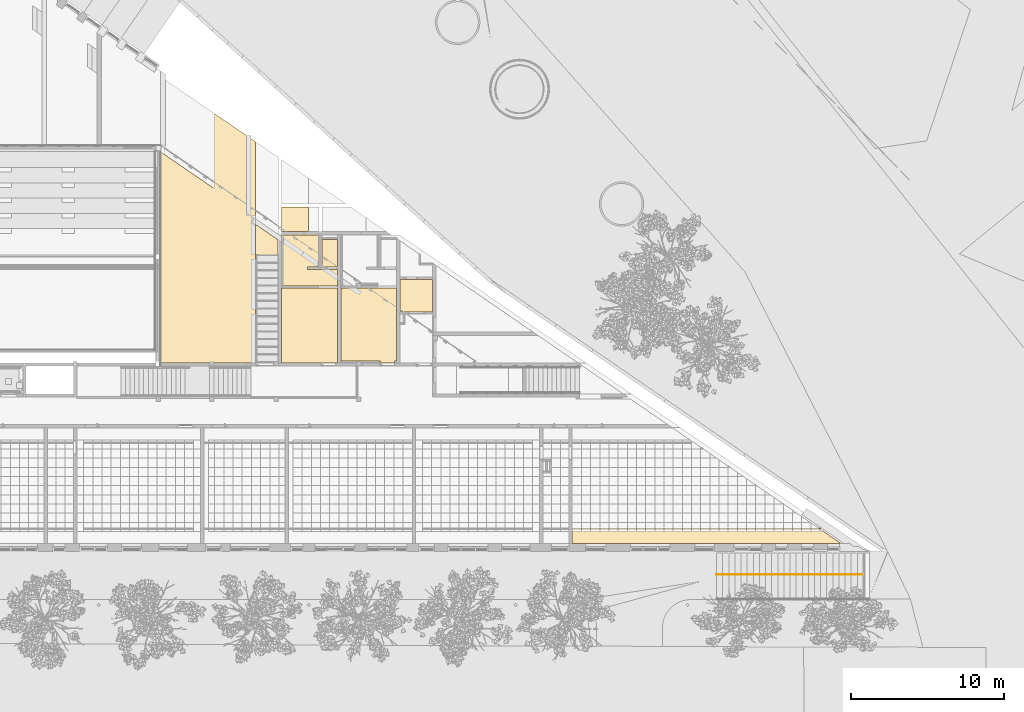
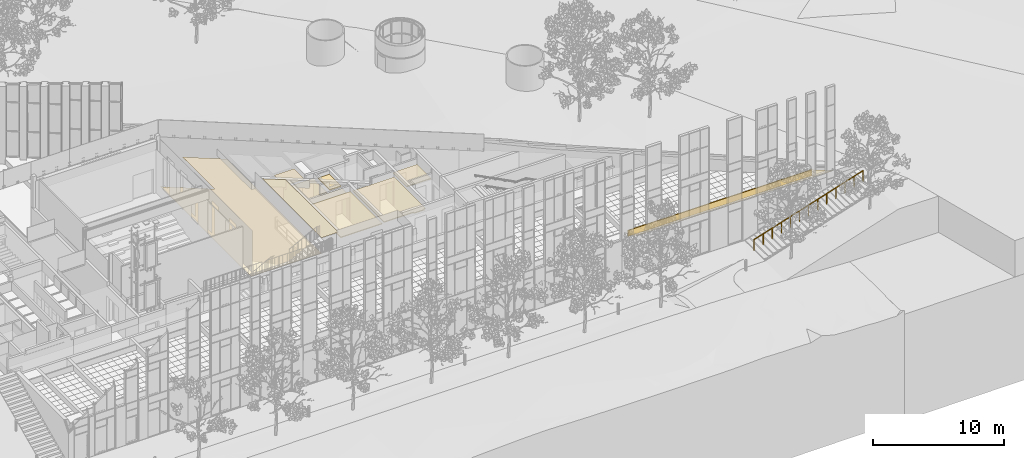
# One storey, part 186 of 246: 10 coverings, 1 railing.
"""IFC2X3 building model written with IfcOpenShell, lengths in millimetres."""

from ifc_helpers import new_model, entity, si_unit, converted_unit, derived_unit, money_unit, direction, frame, origin_with_axes, place, context, subcontext, project, spatial, faceted_brep, material, material_list, type_object, element, save


model = new_model("IFC2X3")

# Units and contexts
model_context = context("Model", 3, precision=0.01, world=origin_with_axes(), true_north=direction((0.0, 1.0)))
body_context = subcontext(model_context, "Body", "Model", "MODEL_VIEW")
ifc_project = project(units=[si_unit("LENGTHUNIT", "METRE", prefix="MILLI"), si_unit("AREAUNIT", "SQUARE_METRE"), si_unit("VOLUMEUNIT", "CUBIC_METRE"), converted_unit("PLANEANGLEUNIT", "DEGREE", entity("IfcPlaneAngleMeasure", 0.0174532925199), si_unit("PLANEANGLEUNIT", "RADIAN"), dimensions=[0, 0, 0, 0, 0, 0, 0]), si_unit("SOLIDANGLEUNIT", "STERADIAN"), money_unit("EUR"), converted_unit("TIMEUNIT", "Year", entity("IfcTimeMeasure", 31556926.0), si_unit("TIMEUNIT", "SECOND"), dimensions=[0, 0, 1, 0, 0, 0, 0]), si_unit("MASSUNIT", "GRAM", prefix="KILO"), si_unit("THERMODYNAMICTEMPERATUREUNIT", "DEGREE_CELSIUS"), si_unit("LUMINOUSINTENSITYUNIT", "LUMEN"), si_unit("ENERGYUNIT", "JOULE", prefix="MEGA"), derived_unit("THERMALCONDUCTANCEUNIT", [(si_unit("POWERUNIT", "WATT"), 1), (si_unit("LENGTHUNIT", "METRE"), -1), (si_unit("THERMODYNAMICTEMPERATUREUNIT", "KELVIN"), -1)]), derived_unit("SPECIFICHEATCAPACITYUNIT", [(si_unit("ENERGYUNIT", "JOULE"), 1), (si_unit("MASSUNIT", "GRAM", prefix="KILO"), -1), (si_unit("THERMODYNAMICTEMPERATUREUNIT", "KELVIN"), -1)]), derived_unit("MASSDENSITYUNIT", [(si_unit("MASSUNIT", "GRAM", prefix="KILO"), 1), (si_unit("VOLUMEUNIT", "CUBIC_METRE"), -1)])], contexts=[model_context])

# Site, building, storey
site_placement = place(None, origin_with_axes())
site = spatial("IfcSite", under=ifc_project, at=site_placement, Name="L.Koidula tn 11b", CompositionType="ELEMENT")
building_placement = place(site_placement, origin_with_axes())
building = spatial("IfcBuilding", under=site, at=building_placement, Name="Rakvere Riigigümnaasium", CompositionType="ELEMENT")
storey_placement = place(building_placement, origin_with_axes())
storey = spatial("IfcBuildingStorey", under=building, at=storey_placement, Name="1.korrus 0,00", CompositionType="ELEMENT", Elevation=0.0)

# Coverings
ifc_material_1 = material(Name="mineraalvill+karkass")
ifc_material_2 = material(Name="SKR-02_Kipsplaat")
ifc_material_list_1 = material_list([ifc_material_1, ifc_material_2])
covering_type_1 = type_object("IfcCoveringType", Name="SA-LV-kips 79", PredefinedType="CEILING")
covering_1_placement = place(storey_placement, frame((85109.9853531, 6435.45437174, 2762.5), z_axis=(0.0, 0.0, 1.0), x_axis=(1.0, 0.0, 0.0)))
element("IfcCovering", 1, at=covering_1_placement, inside=storey, type_object=covering_type_1, material=ifc_material_list_1, Name="L-04 vert", PredefinedType="CEILING", context=body_context, shape_type="Brep", body=[
    faceted_brep([(16226.6447686, 12.5, 562.5), (16226.6447686, 78.5, 562.5), (0.0, 78.5, 562.5), (0.0, 12.5, 562.5), (16226.6447686, 12.5, 0.0), (16226.6447686, 78.5, 0.0), (0.0, 78.5, 0.0), (0.0, 12.5, 0.0)], [[[0, 1, 2, 3]], [[0, 4, 5, 1]], [[1, 5, 6, 2]], [[3, 2, 6, 7]], [[4, 0, 3, 7]], [[5, 4, 7, 6]]]),
    faceted_brep([(16226.6447686, 0.0, 562.5), (16226.6447686, 12.5, 562.5), (0.0, 12.5, 562.5), (0.0, 0.0, 562.5), (16226.6447686, 0.0, 0.0), (16226.6447686, 12.5, 0.0), (0.0, 12.5, 0.0), (0.0, 0.0, 0.0)], [[[0, 1, 2, 3]], [[0, 4, 5, 1]], [[1, 5, 6, 2]], [[3, 2, 6, 7]], [[4, 0, 3, 7]], [[5, 4, 7, 6]]]),
])
covering_2_placement = place(storey_placement, frame((66206.4980729, 22355.4533367, 2250.0), z_axis=(0.0, 0.0, 1.0), x_axis=(1.0, 0.0, 0.0)))
element("IfcCovering", 2, at=covering_2_placement, inside=storey, type_object=covering_type_1, material=ifc_material_list_1, Name="L-05", PredefinedType="CEILING", context=body_context, shape_type="Brep", body=[
    faceted_brep([(3543.48925691, 0.0, 12.5), (3543.48925691, 0.0, 78.5), (0.0, 0.0, 78.5), (0.0, 0.0, 12.5), (3543.48925691, 1075.98880257, 12.5), (3543.48925691, 1075.98880257, 78.5), (1588.48922804, 1075.98880257, 78.5), (1588.48927896, 1225.98880257, 78.5), (2301.98926364, 1225.98880257, 78.5), (2301.98926364, 3333.48384135, 78.5), (1588.48928151, 3333.48384135, 78.5), (0.0, 3333.48384135, 78.5), (0.0, 3333.48384135, 12.5), (1588.48928151, 3333.48384135, 12.5), (2301.98926364, 3333.48384135, 12.5), (2301.98926364, 1225.98880257, 12.5), (1588.48927896, 1225.98880257, 12.5), (1588.48922804, 1075.98880257, 12.5)], [[[0, 1, 2, 3]], [[4, 5, 1, 0]], [[2, 1, 5, 6, 7, 8, 9, 10, 11]], [[3, 2, 11, 12]], [[3, 12, 13, 14, 15, 16, 17, 4, 0]], [[17, 6, 5, 4]], [[16, 7, 6, 17]], [[15, 8, 7, 16]], [[14, 9, 8, 15]], [[13, 10, 9, 14]], [[12, 11, 10, 13]]]),
    faceted_brep([(0.0, 0.0, 0.0), (3543.48925691, 0.0, 0.0), (3543.48925691, 0.0, 12.5), (0.0, 0.0, 12.5), (0.0, 3333.48384135, 0.0), (1588.48928151, 3333.48384135, 0.0), (2301.98926364, 3333.48384135, 0.0), (2301.98926364, 1225.98880257, 0.0), (1588.48927896, 1225.98880257, 0.0), (1588.48922804, 1075.98880257, 0.0), (3543.48925691, 1075.98880257, 0.0), (3543.48925691, 1075.98880257, 12.5), (1588.48922804, 1075.98880257, 12.5), (1588.48927896, 1225.98880257, 12.5), (2301.98926364, 1225.98880257, 12.5), (2301.98926364, 3333.48384135, 12.5), (1588.48928151, 3333.48384135, 12.5), (0.0, 3333.48384135, 12.5)], [[[0, 1, 2, 3]], [[0, 4, 5, 6, 7, 8, 9, 10, 1]], [[1, 10, 11, 2]], [[3, 2, 11, 12, 13, 14, 15, 16, 17]], [[4, 0, 3, 17]], [[5, 4, 17, 16]], [[6, 5, 16, 15]], [[7, 6, 15, 14]], [[8, 7, 14, 13]], [[9, 8, 13, 12]], [[10, 9, 12, 11]]]),
])
covering_3_placement = place(storey_placement, frame((68749.9873461, 23588.9421393, 2400.0), z_axis=(0.0, 0.0, 1.0), x_axis=(1.0, 0.0, 0.0)))
element("IfcCovering", 3, at=covering_3_placement, inside=storey, type_object=covering_type_1, material=ifc_material_list_1, Name="L-05", PredefinedType="CEILING", context=body_context, shape_type="Brep", body=[
    faceted_brep([(999.999983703, 0.0, 12.5), (999.999983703, 0.0, 78.5), (0.0, 0.0, 78.5), (0.0, 0.0, 12.5), (999.999983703, 1800.47375207, 12.5), (999.999983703, 1800.47375207, 78.5), (0.0, 1800.47375207, 78.5), (0.0, 1800.47375207, 12.5)], [[[0, 1, 2, 3]], [[4, 5, 1, 0]], [[2, 1, 5, 6]], [[3, 2, 6, 7]], [[3, 7, 4, 0]], [[7, 6, 5, 4]]]),
    faceted_brep([(0.0, 0.0, 0.0), (999.999983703, 0.0, 0.0), (999.999983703, 0.0, 12.5), (0.0, 0.0, 12.5), (0.0, 1800.47375207, 0.0), (999.999983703, 1800.47375207, 0.0), (999.999983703, 1800.47375207, 12.5), (0.0, 1800.47375207, 12.5)], [[[0, 1, 2, 3]], [[0, 4, 5, 1]], [[1, 5, 6, 2]], [[3, 2, 6, 7]], [[4, 0, 3, 7]], [[5, 4, 7, 6]]]),
])
covering_4_placement = place(storey_placement, frame((75979.9446488, 22784.9371768, 2700.0), z_axis=(0.0, 0.0, 1.0), x_axis=(1.0, 0.0, 0.0)))
element("IfcCovering", 4, at=covering_4_placement, inside=storey, type_object=covering_type_1, material=ifc_material_list_1, Name="L-04", PredefinedType="CEILING", context=body_context, shape_type="Brep", body=[
    faceted_brep([(-2139.94647787, 0.0, 12.5), (-2139.94647787, 0.0, 78.5), (0.0, 0.0, 78.5), (0.0, 0.0, 12.5), (-2139.94647787, -2134.54613911, 12.5), (-2139.94647787, -2134.54613911, 78.5), (-0.0730579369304, -2134.54613911, 78.5), (-0.0730579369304, -2134.54613911, 12.5)], [[[0, 1, 2, 3]], [[4, 5, 1, 0]], [[2, 1, 5, 6]], [[3, 2, 6, 7]], [[3, 7, 4, 0]], [[7, 6, 5, 4]]]),
    faceted_brep([(0.0, 0.0, 0.0), (-2139.94647787, 0.0, 0.0), (-2139.94647787, 0.0, 12.5), (0.0, 0.0, 12.5), (-0.0730579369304, -2134.54613911, 0.0), (-2139.94647787, -2134.54613911, 0.0), (-2139.94647787, -2134.54613911, 12.5), (-0.0730579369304, -2134.54613911, 12.5)], [[[0, 1, 2, 3]], [[0, 4, 5, 1]], [[1, 5, 6, 2]], [[3, 2, 6, 7]], [[4, 0, 3, 7]], [[5, 4, 7, 6]]]),
])
covering_5_placement = place(storey_placement, frame((69974.9873298, 17427.9555225, 2700.0), z_axis=(0.0, 0.0, 1.0), x_axis=(1.0, 0.0, 0.0)))
element("IfcCovering", 5, at=covering_5_placement, inside=storey, type_object=covering_type_1, material=ifc_material_list_1, Name="L-02", PredefinedType="CEILING", context=body_context, shape_type="Brep", body=[
    faceted_brep([(2585.01083929, 0.0, 12.5), (2585.01083929, 0.0, 78.5), (0.0, 0.0, 78.5), (0.0, 0.0, 12.5), (2585.01083929, -107.499999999, 12.5), (2585.01083929, -107.499999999, 78.5), (3505.01083941, -107.499999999, 78.5), (3505.01083941, 6.64357457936e-10, 78.5), (3645.01085726, 6.64357457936e-10, 78.5), (3645.01085726, 4780.79781421, 78.5), (0.0, 4780.79781421, 78.5), (0.0, 4780.79781421, 12.5), (3645.01085726, 4780.79781421, 12.5), (3645.01085726, 6.64357457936e-10, 12.5), (3505.01083941, 6.64357457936e-10, 12.5), (3505.01083941, -107.499999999, 12.5)], [[[0, 1, 2, 3]], [[4, 5, 1, 0]], [[2, 1, 5, 6, 7, 8, 9, 10]], [[3, 2, 10, 11]], [[3, 11, 12, 13, 14, 15, 4, 0]], [[15, 6, 5, 4]], [[14, 7, 6, 15]], [[13, 8, 7, 14]], [[12, 9, 8, 13]], [[11, 10, 9, 12]]]),
    faceted_brep([(0.0, 0.0, 0.0), (2585.01083929, 0.0, 0.0), (2585.01083929, 0.0, 12.5), (0.0, 0.0, 12.5), (0.0, 4780.79781421, 0.0), (3645.01085726, 4780.79781421, 0.0), (3645.01085726, 6.64357457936e-10, 0.0), (3505.01083941, 6.64357457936e-10, 0.0), (3505.01083941, -107.499999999, 0.0), (2585.01083929, -107.499999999, 0.0), (2585.01083929, -107.499999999, 12.5), (3505.01083941, -107.499999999, 12.5), (3505.01083941, 6.64357457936e-10, 12.5), (3645.01085726, 6.64357457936e-10, 12.5), (3645.01085726, 4780.79781421, 12.5), (0.0, 4780.79781421, 12.5)], [[[0, 1, 2, 3]], [[0, 4, 5, 6, 7, 8, 9, 1]], [[1, 9, 10, 2]], [[3, 2, 10, 11, 12, 13, 14, 15]], [[4, 0, 3, 15]], [[5, 4, 15, 14]], [[6, 5, 14, 13]], [[7, 6, 13, 12]], [[8, 7, 12, 11]], [[9, 8, 11, 10]]]),
])
covering_6_placement = place(storey_placement, frame((66109.9980729, 22208.7533782, 2700.0), z_axis=(0.0, 0.0, 1.0), x_axis=(1.0, 0.0, 0.0)))
element("IfcCovering", 6, at=covering_6_placement, inside=storey, type_object=covering_type_1, material=ifc_material_list_1, Name="L-02", PredefinedType="CEILING", context=body_context, shape_type="Brep", body=[
    faceted_brep([(0.0, -4888.29785562, 12.5), (0.0, -4888.29785562, 78.5), (0.0, 0.0, 78.5), (0.0, 0.0, 12.5), (3644.98922122, -4888.29785562, 12.5), (3644.98922122, -4888.29785562, 78.5), (3644.98922122, 0.0, 78.5), (2454.98917968, 0.0, 78.5), (2454.98917968, 0.0, 12.5), (3644.98922122, 0.0, 12.5)], [[[0, 1, 2, 3]], [[4, 5, 1, 0]], [[2, 1, 5, 6, 7]], [[3, 2, 7, 8]], [[3, 8, 9, 4, 0]], [[9, 6, 5, 4]], [[8, 7, 6, 9]]]),
    faceted_brep([(0.0, 0.0, 0.0), (0.0, -4888.29785562, 0.0), (0.0, -4888.29785562, 12.5), (0.0, 0.0, 12.5), (2454.98917968, 0.0, 0.0), (3644.98922122, 0.0, 0.0), (3644.98922122, -4888.29785562, 0.0), (3644.98922122, -4888.29785562, 12.5), (3644.98922122, 0.0, 12.5), (2454.98917968, 0.0, 12.5)], [[[0, 1, 2, 3]], [[0, 4, 5, 6, 1]], [[1, 6, 7, 2]], [[3, 2, 7, 8, 9]], [[4, 0, 3, 9]], [[5, 4, 9, 8]], [[6, 5, 8, 7]]]),
])
ifc_material_3 = material(Name="Salto-siseviimistlus-ripplagi")
covering_type_2 = type_object("IfcCoveringType", Name="Salto-siseviimistlus-ripplagi 1", PredefinedType="CLADDING")
covering_7_placement = place(storey_placement, frame((85109.9853531, 5510.45553887, 3325.0), z_axis=(0.0, 0.0, 1.0), x_axis=(1.0, 0.0, 0.0)))
element("IfcCovering", 7, at=covering_7_placement, inside=storey, type_object=covering_type_2, material=ifc_material_3, Name="L-09", PredefinedType="CLADDING", context=body_context, shape_type="Brep", body=[
    faceted_brep([(0.0, 0.0, 0.0), (0.0, 0.0, -1.0), (17575.280484, 0.0, -1.0), (17575.280484, 0.0, 0.0), (0.0, 924.998832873, 0.0), (0.0, 924.998832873, -1.0), (16226.6447686, 924.998832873, -1.0), (16226.6447686, 924.998832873, 0.0)], [[[0, 1, 2, 3]], [[4, 5, 1, 0]], [[2, 1, 5, 6]], [[3, 2, 6, 7]], [[4, 0, 3, 7]], [[7, 6, 5, 4]]]),
])
ifc_material_4 = material(Name="Tolmutõke")
covering_type_3 = type_object("IfcCoveringType", Name="Tolmutõke 1", PredefinedType="CLADDING")
covering_8_placement = place(storey_placement, frame((64404.0809479, 17312.9624992, 3325.00000507), z_axis=(0.0, 0.0, 1.0), x_axis=(1.0, 0.0, 0.0)))
element("IfcCovering", 8, at=covering_8_placement, inside=storey, type_object=covering_type_3, material=ifc_material_4, Name="L-07", PredefinedType="CLADDING", context=body_context, shape_type="Brep", body=[
    faceted_brep([(0.0, 0.0, 0.0), (0.0, 0.0, -1.0), (1479.99797829, 0.0, -1.0), (1479.99797829, 0.0, 0.0), (0.0, 9062.70149417, 0.0), (0.0, 9062.70149417, -1.0), (1479.99797829, 8047.66948313, -1.0), (1479.99797829, 8047.66948313, 0.0)], [[[0, 1, 2, 3]], [[4, 5, 1, 0]], [[2, 1, 5, 6]], [[3, 2, 6, 7]], [[4, 0, 3, 7]], [[7, 6, 5, 4]]]),
])
covering_9_placement = place(storey_placement, frame((58190.0348101, 17310.4555225, 1880.0), z_axis=(0.0, 0.0, 1.0), x_axis=(1.0, 0.0, 0.0)))
element("IfcCovering", 9, at=covering_9_placement, inside=storey, type_object=covering_type_3, material=ifc_material_4, Name="L-07", PredefinedType="CLADDING", context=body_context, shape_type="Brep", body=[
    faceted_brep([(0.0, 0.0, 0.0), (0.0, 0.0, -1.0), (6219.96515572, 0.0, -1.0), (6219.96515572, 0.0, 0.0), (0.0, 13811.9609113, 0.0), (0.0, 13811.9609113, -1.0), (3419.96594723, 11466.4226222, -1.0), (3419.96594723, 16384.7054891, -1.0), (6219.96515572, 14464.2488968, -1.0), (6219.96515572, 14464.2488968, 0.0), (3419.96594723, 16384.7054891, 0.0), (3419.96594723, 11466.4226222, 0.0)], [[[0, 1, 2, 3]], [[4, 5, 1, 0]], [[1, 5, 6, 7, 8, 2]], [[3, 2, 8, 9]], [[4, 0, 3, 9, 10, 11]], [[11, 6, 5, 4]], [[10, 7, 6, 11]], [[9, 8, 7, 10]]]),
])
covering_10_placement = place(storey_placement, frame((66099.9980767, 27511.4130422, 2345.0), z_axis=(0.0, 0.0, 1.0), x_axis=(1.0, 0.0, 0.0)))
element("IfcCovering", 10, at=covering_10_placement, inside=storey, type_object=covering_type_3, material=ifc_material_4, Name="L-07", PredefinedType="CLADDING", context=body_context, shape_type="Brep", body=[
    faceted_brep([(0.0, 0.0, 0.0), (0.0, 0.0, -1.0), (0.0, -1612.47564594, -1.0), (0.0, -1612.47564594, 0.0), (1765.0114252, 0.0, 0.0), (1765.0114252, 0.0, -1.0), (1765.0114252, -1612.47564594, -1.0), (1765.0114252, -1612.47564594, 0.0)], [[[0, 1, 2, 3]], [[4, 5, 1, 0]], [[1, 5, 6, 2]], [[3, 2, 6, 7]], [[4, 0, 3, 7]], [[7, 6, 5, 4]]]),
])

# Railing
ifc_material_5 = material(Name="teras_must")
ifc_material_list_2 = material_list([ifc_material_5, ifc_material_5, ifc_material_5, ifc_material_5, ifc_material_5, ifc_material_5, ifc_material_5, ifc_material_5, ifc_material_5, ifc_material_5, ifc_material_5, ifc_material_5])
railing_type = type_object("IfcRailingType", Name="AR-VTP-02 9630 x 4100", PredefinedType="NOTDEFINED")
railing_placement = place(storey_placement, frame((94522.4006042, 3461.45553887, -20.0), z_axis=(0.0, 0.0, 1.0), x_axis=(0.0, 1.0, 0.0)))
element("IfcRailing", 11, at=railing_placement, inside=storey, type_object=railing_type, material=ifc_material_list_2, Name="VTP-02", PredefinedType="NOTDEFINED", context=body_context, shape_type="Brep", body=[
    faceted_brep([(50.0, 0.0, 0.0), (50.0, -30.0000455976, 0.0), (0.0, -30.0000455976, 0.0), (0.0, 0.0, 0.0), (50.0, 0.0, 1018.39996558), (50.0, -9630.0, 4099.99996558), (50.0, -9630.0, 3071.99996245), (50.0, -9599.9999544, 3071.99996245), (50.0, -9599.9999544, 4050.50179887), (50.0, -8830.00002772, 3804.10183955), (50.0, -8799.99998212, 3794.501802), (50.0, -8030.00005543, 3548.10184268), (50.0, -8000.00000983, 3538.50180513), (50.0, -7229.99993965, 3292.10184581), (50.0, -7200.00003755, 3282.50180826), (50.0, -6429.99996737, 3036.10184894), (50.0, -6400.00006527, 3026.50181139), (50.0, -5629.99999508, 2780.10185207), (50.0, -5599.99994949, 2770.50181452), (50.0, -4830.0000228, 2524.1018552), (50.0, -4799.9999772, 2514.50181765), (50.0, -4030.00005051, 2268.10185833), (50.0, -4000.00000492, 2258.50182077), (50.0, -3229.99993473, 2012.10186145), (50.0, -3200.00003263, 2002.5018239), (50.0, -2429.99996245, 1756.10186458), (50.0, -2400.00006035, 1746.50182703), (50.0, -1629.99999017, 1500.10186771), (50.0, -1599.99994457, 1490.50183016), (50.0, -830.000017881, 1244.10187084), (50.0, -799.999972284, 1234.50183329), (50.0, -30.0000455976, 988.101873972), (0.0, -30.0000455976, 988.101873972), (0.0, -799.999972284, 1234.50183329), (0.0, -830.000017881, 1244.10187084), (0.0, -1599.99994457, 1490.50183016), (0.0, -1629.99999017, 1500.10186771), (0.0, -2400.00006035, 1746.50182703), (0.0, -2429.99996245, 1756.10186458), (0.0, -3200.00003263, 2002.5018239), (0.0, -3229.99993473, 2012.10186145), (0.0, -4000.00000492, 2258.50182077), (0.0, -4030.00005051, 2268.10185833), (0.0, -4799.9999772, 2514.50181765), (0.0, -4830.0000228, 2524.1018552), (0.0, -5599.99994949, 2770.50181452), (0.0, -5629.99999508, 2780.10185207), (0.0, -6400.00006527, 3026.50181139), (0.0, -6429.99996737, 3036.10184894), (0.0, -7200.00003755, 3282.50180826), (0.0, -7229.99993965, 3292.10184581), (0.0, -8000.00000983, 3538.50180513), (0.0, -8030.00005543, 3548.10184268), (0.0, -8799.99998212, 3794.501802), (0.0, -8830.00002772, 3804.10183955), (0.0, -9599.9999544, 4050.50179887), (0.0, -9599.9999544, 3071.99996245), (0.0, -9630.0, 3071.99996245), (0.0, -9630.0, 4099.99996558), (0.0, 0.0, 1018.39996558)], [[[0, 1, 2, 3]], [[0, 4, 5, 6, 7, 8, 9, 10, 11, 12, 13, 14, 15, 16, 17, 18, 19, 20, 21, 22, 23, 24, 25, 26, 27, 28, 29, 30, 31, 1]], [[1, 31, 32, 2]], [[3, 2, 32, 33, 34, 35, 36, 37, 38, 39, 40, 41, 42, 43, 44, 45, 46, 47, 48, 49, 50, 51, 52, 53, 54, 55, 56, 57, 58, 59]], [[4, 0, 3, 59]], [[5, 4, 59, 58]], [[6, 5, 58, 57]], [[7, 6, 57, 56]], [[8, 7, 56, 55]], [[9, 8, 55, 54]], [[10, 9, 54, 53]], [[11, 10, 53, 52]], [[12, 11, 52, 51]], [[13, 12, 51, 50]], [[14, 13, 50, 49]], [[15, 14, 49, 48]], [[16, 15, 48, 47]], [[17, 16, 47, 46]], [[18, 17, 46, 45]], [[19, 18, 45, 44]], [[20, 19, 44, 43]], [[21, 20, 43, 42]], [[22, 21, 42, 41]], [[23, 22, 41, 40]], [[24, 23, 40, 39]], [[25, 24, 39, 38]], [[26, 25, 38, 37]], [[27, 26, 37, 36]], [[28, 27, 36, 35]], [[29, 28, 35, 34]], [[30, 29, 34, 33]], [[31, 30, 33, 32]]]),
    faceted_brep([(50.0, -800.0, 1234.50180956), (50.0, -800.0, 256.0), (0.0, -800.0, 256.0), (0.0, -800.0, 1234.50180956), (50.0, -830.0, 1244.10180956), (50.0, -830.0, 256.0), (0.0, -830.0, 256.0), (0.0, -830.0, 1244.10180956)], [[[0, 1, 2, 3]], [[0, 4, 5, 1]], [[1, 5, 6, 2]], [[3, 2, 6, 7]], [[4, 0, 3, 7]], [[5, 4, 7, 6]]]),
    faceted_brep([(50.0, -1600.0, 1490.50180956), (50.0, -1600.0, 512.0), (0.0, -1600.0, 512.0), (0.0, -1600.0, 1490.50180956), (50.0, -1630.0, 1500.10180956), (50.0, -1630.0, 512.0), (0.0, -1630.0, 512.0), (0.0, -1630.0, 1500.10180956)], [[[0, 1, 2, 3]], [[0, 4, 5, 1]], [[1, 5, 6, 2]], [[3, 2, 6, 7]], [[4, 0, 3, 7]], [[5, 4, 7, 6]]]),
    faceted_brep([(50.0, -2400.0, 1746.50180956), (50.0, -2400.0, 768.0), (0.0, -2400.0, 768.0), (0.0, -2400.0, 1746.50180956), (50.0, -2430.0, 1756.10180956), (50.0, -2430.0, 768.0), (0.0, -2430.0, 768.0), (0.0, -2430.0, 1756.10180956)], [[[0, 1, 2, 3]], [[0, 4, 5, 1]], [[1, 5, 6, 2]], [[3, 2, 6, 7]], [[4, 0, 3, 7]], [[5, 4, 7, 6]]]),
    faceted_brep([(50.0, -3230.0, 2012.10180956), (50.0, -3200.0, 2002.50180956), (0.0, -3200.0, 2002.50180956), (0.0, -3230.0, 2012.10180956), (50.0, -3230.0, 1024.0), (50.0, -3200.0, 1024.0), (0.0, -3200.0, 1024.0), (0.0, -3230.0, 1024.0)], [[[0, 1, 2, 3]], [[0, 4, 5, 1]], [[1, 5, 6, 2]], [[3, 2, 6, 7]], [[4, 0, 3, 7]], [[5, 4, 7, 6]]]),
    faceted_brep([(50.0, -4030.0, 2268.10180956), (50.0, -4000.0, 2258.50180956), (0.0, -4000.0, 2258.50180956), (0.0, -4030.0, 2268.10180956), (50.0, -4030.0, 1280.0), (50.0, -4000.0, 1280.0), (0.0, -4000.0, 1280.0), (0.0, -4030.0, 1280.0)], [[[0, 1, 2, 3]], [[0, 4, 5, 1]], [[1, 5, 6, 2]], [[3, 2, 6, 7]], [[4, 0, 3, 7]], [[5, 4, 7, 6]]]),
    faceted_brep([(50.0, -4830.0, 2524.10180956), (50.0, -4800.0, 2514.50180956), (0.0, -4800.0, 2514.50180956), (0.0, -4830.0, 2524.10180956), (50.0, -4830.0, 1536.0), (50.0, -4800.0, 1536.0), (0.0, -4800.0, 1536.0), (0.0, -4830.0, 1536.0)], [[[0, 1, 2, 3]], [[0, 4, 5, 1]], [[1, 5, 6, 2]], [[3, 2, 6, 7]], [[4, 0, 3, 7]], [[5, 4, 7, 6]]]),
    faceted_brep([(50.0, -5600.0, 2770.50180956), (50.0, -5600.0, 1792.0), (0.0, -5600.0, 1792.0), (0.0, -5600.0, 2770.50180956), (50.0, -5630.0, 2780.10180956), (50.0, -5630.0, 1792.0), (0.0, -5630.0, 1792.0), (0.0, -5630.0, 2780.10180956)], [[[0, 1, 2, 3]], [[0, 4, 5, 1]], [[1, 5, 6, 2]], [[3, 2, 6, 7]], [[4, 0, 3, 7]], [[5, 4, 7, 6]]]),
    faceted_brep([(50.0, -6400.0, 3026.50180956), (50.0, -6400.0, 2048.0), (0.0, -6400.0, 2048.0), (0.0, -6400.0, 3026.50180956), (50.0, -6430.0, 3036.10180956), (50.0, -6430.0, 2048.0), (0.0, -6430.0, 2048.0), (0.0, -6430.0, 3036.10180956)], [[[0, 1, 2, 3]], [[0, 4, 5, 1]], [[1, 5, 6, 2]], [[3, 2, 6, 7]], [[4, 0, 3, 7]], [[5, 4, 7, 6]]]),
    faceted_brep([(50.0, -7200.0, 3282.50180956), (50.0, -7200.0, 2304.0), (0.0, -7200.0, 2304.0), (0.0, -7200.0, 3282.50180956), (50.0, -7230.0, 3292.10180956), (50.0, -7230.0, 2304.0), (0.0, -7230.0, 2304.0), (0.0, -7230.0, 3292.10180956)], [[[0, 1, 2, 3]], [[0, 4, 5, 1]], [[1, 5, 6, 2]], [[3, 2, 6, 7]], [[4, 0, 3, 7]], [[5, 4, 7, 6]]]),
    faceted_brep([(50.0, -8000.0, 3538.50180956), (50.0, -8000.0, 2560.0), (0.0, -8000.0, 2560.0), (0.0, -8000.0, 3538.50180956), (50.0, -8030.0, 3548.10180956), (50.0, -8030.0, 2560.0), (0.0, -8030.0, 2560.0), (0.0, -8030.0, 3548.10180956)], [[[0, 1, 2, 3]], [[0, 4, 5, 1]], [[1, 5, 6, 2]], [[3, 2, 6, 7]], [[4, 0, 3, 7]], [[5, 4, 7, 6]]]),
    faceted_brep([(50.0, -8800.0, 3794.50180956), (50.0, -8800.0, 2816.0), (0.0, -8800.0, 2816.0), (0.0, -8800.0, 3794.50180956), (50.0, -8830.0, 3804.10180956), (50.0, -8830.0, 2816.0), (0.0, -8830.0, 2816.0), (0.0, -8830.0, 3804.10180956)], [[[0, 1, 2, 3]], [[0, 4, 5, 1]], [[1, 5, 6, 2]], [[3, 2, 6, 7]], [[4, 0, 3, 7]], [[5, 4, 7, 6]]]),
])

save(model, "model.ifc")
